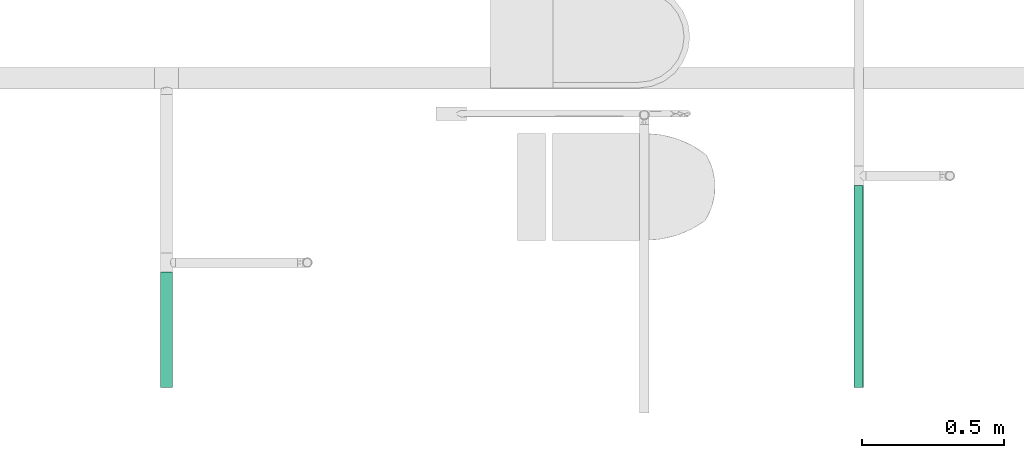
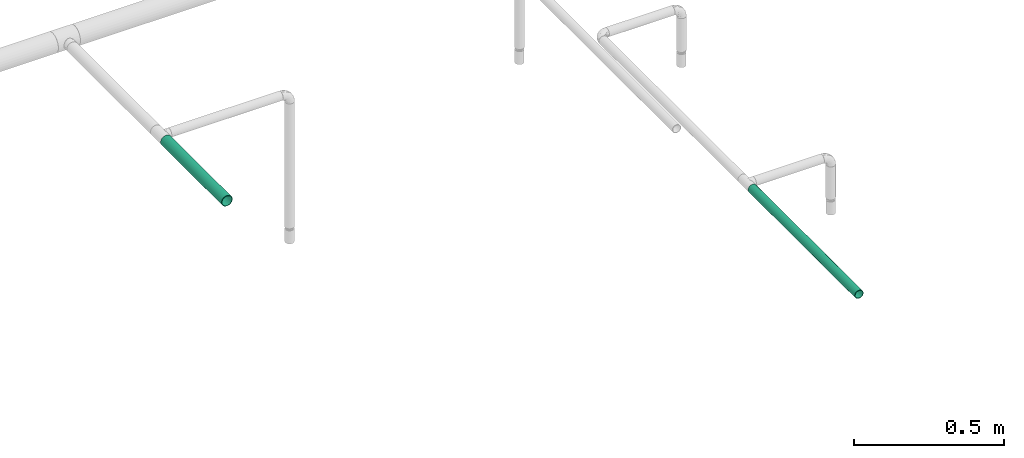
# One storey, part 84 of 95: 2 flow segments.
"""IFC2X3 building model written with IfcOpenShell, lengths in millimetres."""

from ifc_helpers import new_model, entity, si_unit, converted_unit, derived_unit, direction, frame, place, context, subcontext, project, spatial, faceted_brep, type_object, element, save


model = new_model("IFC2X3")

# Units and contexts
model_context = context("Model", 3, precision=0.01, world=frame((0.0, 4.29681676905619e-09, 0.0)), true_north=direction((4.01073788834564e-13, 1.0)))
plan_context = context("Plan", 3, precision=0.01, world=frame((0.0, 4.29681676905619e-09, 0.0)), true_north=direction((4.01073788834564e-13, 1.0)))
body_context = subcontext(model_context, "Body", "Model", "MODEL_VIEW")
ifc_project = project(units=[converted_unit("PLANEANGLEUNIT", "DEGREE", entity("IfcPositiveLengthMeasure", 0.0174532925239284), si_unit("PLANEANGLEUNIT", "RADIAN"), dimensions=[0, 0, 0, 0, 0, 0, 0]), si_unit("AREAUNIT", "SQUARE_METRE"), si_unit("LENGTHUNIT", "METRE", prefix="MILLI"), si_unit("MASSUNIT", "GRAM", prefix="KILO"), si_unit("POWERUNIT", "WATT"), si_unit("PRESSUREUNIT", "PASCAL"), si_unit("FORCEUNIT", "NEWTON", prefix="KILO"), si_unit("ELECTRICVOLTAGEUNIT", "VOLT"), si_unit("ELECTRICCURRENTUNIT", "AMPERE"), si_unit("THERMODYNAMICTEMPERATUREUNIT", "DEGREE_CELSIUS"), si_unit("TIMEUNIT", "SECOND"), si_unit("VOLUMEUNIT", "CUBIC_METRE"), derived_unit("LINEARVELOCITYUNIT", [(si_unit("LENGTHUNIT", "METRE"), 1), (si_unit("TIMEUNIT", "SECOND"), -1)]), derived_unit("VOLUMETRICFLOWRATEUNIT", [(si_unit("VOLUMEUNIT", "CUBIC_METRE"), 1), (si_unit("TIMEUNIT", "SECOND"), -1)]), derived_unit("THERMALTRANSMITTANCEUNIT", [(si_unit("POWERUNIT", "WATT"), 1), (si_unit("THERMODYNAMICTEMPERATUREUNIT", "KELVIN"), -1), (si_unit("AREAUNIT", "SQUARE_METRE"), -1)]), derived_unit("SOUNDPRESSUREUNIT", [(si_unit("PRESSUREUNIT", "PASCAL"), 1)])], contexts=[model_context, plan_context])

# Site, building, storey
site_placement = place(None, frame((0.0, -4.29681676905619e-09, 0.0), z_axis=(0.0, 0.0, 1.0), x_axis=(1.0, 0.0, 0.0)))
site = spatial("IfcSite", under=ifc_project, at=site_placement, CompositionType="ELEMENT")
building_placement = place(site_placement, frame((0.0, 4.29681676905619e-09, 0.0), z_axis=(0.0, 0.0, 1.0), x_axis=(1.0, 0.0, 0.0)))
building = spatial("IfcBuilding", under=site, at=building_placement, Name="mc-building", CompositionType="ELEMENT")
storey_placement = place(building_placement, frame((0.0, 0.0, 210900.0), z_axis=(0.0, 0.0, 1.0), x_axis=(1.0, 0.0, 0.0)))
storey = spatial("IfcBuildingStorey", under=building, at=storey_placement, Name="Nivå F", CompositionType="ELEMENT", Elevation=210900.0)

# Flow segments
pipe_segment_type = type_object("IfcPipeSegmentType", Name="Stålrør normaltykke", PredefinedType="RIGIDSEGMENT")
flow_segment_1_placement = place(storey_placement, frame((530010.01659, 441179.97142, 4310.0), z_axis=(0.0, 0.0, 1.0), x_axis=(0.0, -1.0, 0.0)))
element("IfcFlowSegment", 1, at=flow_segment_1_placement, inside=storey, type_object=pipe_segment_type, Name="Stålrør normaltykke", context=body_context, shape_type="Brep", body=[
    faceted_brep([(404.971420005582, 19.2, 0.0), (404.971420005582, 18.9083088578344, -3.33404501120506), (0.0, 18.9083088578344, -3.33404501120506), (0.0, 19.2, 0.0), (404.971420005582, 18.0420983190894, -6.56678675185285), (0.0, 18.0420983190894, -6.56678675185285), (404.971420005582, 16.6276877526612, -9.60000000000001), (0.0, 16.6276877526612, -9.60000000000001), (404.971420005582, 14.7080533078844, -12.3415221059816), (0.0, 14.7080533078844, -12.3415221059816), (404.971420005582, 12.3415221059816, -14.7080533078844), (0.0, 12.3415221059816, -14.7080533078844), (404.971420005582, 9.6, -16.6276877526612), (0.0, 9.6, -16.6276877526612), (404.971420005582, 6.56678675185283, -18.0420983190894), (0.0, 6.56678675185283, -18.0420983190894), (404.971420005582, 3.33404501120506, -18.9083088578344), (0.0, 3.33404501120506, -18.9083088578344), (404.971420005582, -3.52698278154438e-15, -19.2), (0.0, -3.52698278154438e-15, -19.2), (404.971420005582, -3.33404501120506, -18.9083088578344), (0.0, -3.33404501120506, -18.9083088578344), (404.971420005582, -6.56678675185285, -18.0420983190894), (0.0, -6.56678675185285, -18.0420983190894), (404.971420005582, -9.60000000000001, -16.6276877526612), (0.0, -9.60000000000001, -16.6276877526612), (404.971420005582, -12.3415221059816, -14.7080533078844), (0.0, -12.3415221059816, -14.7080533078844), (404.971420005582, -14.7080533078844, -12.3415221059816), (0.0, -14.7080533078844, -12.3415221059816), (404.971420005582, -16.6276877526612, -9.59999999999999), (0.0, -16.6276877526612, -9.59999999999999), (404.971420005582, -18.0420983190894, -6.56678675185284), (0.0, -18.0420983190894, -6.56678675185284), (404.971420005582, -18.9083088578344, -3.33404501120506), (0.0, -18.9083088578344, -3.33404501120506), (404.971420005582, -19.2, 2.35132185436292e-15), (0.0, -19.2, 2.35132185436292e-15), (404.971420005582, -18.9083088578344, 3.33404501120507), (0.0, -18.9083088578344, 3.33404501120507), (404.971420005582, -18.0420983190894, 6.56678675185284), (0.0, -18.0420983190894, 6.56678675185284), (404.971420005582, -16.6276877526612, 9.6), (0.0, -16.6276877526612, 9.6), (404.971420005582, -14.7080533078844, 12.3415221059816), (0.0, -14.7080533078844, 12.3415221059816), (404.971420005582, -12.3415221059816, 14.7080533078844), (0.0, -12.3415221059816, 14.7080533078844), (404.971420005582, -9.6, 16.6276877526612), (0.0, -9.6, 16.6276877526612), (404.971420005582, -6.56678675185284, 18.0420983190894), (0.0, -6.56678675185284, 18.0420983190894), (404.971420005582, -3.33404501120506, 18.9083088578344), (0.0, -3.33404501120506, 18.9083088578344), (404.971420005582, 1.17566092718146e-15, 19.2), (0.0, 1.17566092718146e-15, 19.2), (404.971420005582, 3.33404501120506, 18.9083088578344), (0.0, 3.33404501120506, 18.9083088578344), (404.971420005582, 6.56678675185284, 18.0420983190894), (0.0, 6.56678675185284, 18.0420983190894), (404.971420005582, 9.6, 16.6276877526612), (0.0, 9.6, 16.6276877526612), (404.971420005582, 12.3415221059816, 14.7080533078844), (0.0, 12.3415221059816, 14.7080533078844), (404.971420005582, 14.7080533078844, 12.3415221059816), (0.0, 14.7080533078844, 12.3415221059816), (404.971420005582, 16.6276877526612, 9.6), (0.0, 16.6276877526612, 9.6), (404.971420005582, 18.0420983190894, 6.56678675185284), (0.0, 18.0420983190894, 6.56678675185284), (404.971420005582, 18.9083088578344, 3.33404501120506), (0.0, 18.9083088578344, 3.33404501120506), (404.971420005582, 20.8779243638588, -3.68134136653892), (404.971420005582, 21.2, 0.0), (0.0, 21.2, 0.0), (0.0, 20.8779243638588, -3.68134136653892), (404.971420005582, 20.8779243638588, 3.68134136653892), (0.0, 20.8779243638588, 3.68134136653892), (404.971420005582, 19.9214835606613, 7.25082703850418), (0.0, 19.9214835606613, 7.25082703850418), (404.971420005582, 18.3597385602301, 10.6), (0.0, 18.3597385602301, 10.6), (404.971420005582, 16.2401421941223, 13.6270973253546), (0.0, 16.2401421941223, 13.6270973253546), (404.971420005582, 13.6270973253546, 16.2401421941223), (0.0, 13.6270973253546, 16.2401421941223), (404.971420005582, 10.6, 18.3597385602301), (0.0, 10.6, 18.3597385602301), (404.971420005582, 7.25082703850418, 19.9214835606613), (0.0, 7.25082703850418, 19.9214835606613), (404.971420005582, 3.68134136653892, 20.8779243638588), (0.0, 3.68134136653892, 20.8779243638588), (404.971420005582, 1.29812560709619e-15, 21.2), (0.0, 1.29812560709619e-15, 21.2), (404.971420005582, -3.68134136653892, 20.8779243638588), (0.0, -3.68134136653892, 20.8779243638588), (404.971420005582, -7.25082703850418, 19.9214835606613), (0.0, -7.25082703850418, 19.9214835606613), (404.971420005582, -10.6, 18.3597385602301), (0.0, -10.6, 18.3597385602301), (404.971420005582, -13.6270973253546, 16.2401421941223), (0.0, -13.6270973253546, 16.2401421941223), (404.971420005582, -16.2401421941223, 13.6270973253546), (0.0, -16.2401421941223, 13.6270973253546), (404.971420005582, -18.3597385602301, 10.6), (0.0, -18.3597385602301, 10.6), (404.971420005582, -19.9214835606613, 7.25082703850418), (0.0, -19.9214835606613, 7.25082703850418), (404.971420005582, -20.8779243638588, 3.68134136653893), (0.0, -20.8779243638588, 3.68134136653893), (404.971420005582, -21.2, 2.59625121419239e-15), (0.0, -21.2, 2.59625121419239e-15), (404.971420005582, -20.8779243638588, -3.68134136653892), (0.0, -20.8779243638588, -3.68134136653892), (404.971420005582, -19.9214835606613, -7.25082703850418), (0.0, -19.9214835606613, -7.25082703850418), (404.971420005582, -18.3597385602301, -10.6), (0.0, -18.3597385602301, -10.6), (404.971420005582, -16.2401421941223, -13.6270973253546), (0.0, -16.2401421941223, -13.6270973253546), (404.971420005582, -13.6270973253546, -16.2401421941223), (0.0, -13.6270973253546, -16.2401421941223), (404.971420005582, -10.6, -18.3597385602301), (0.0, -10.6, -18.3597385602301), (404.971420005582, -7.25082703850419, -19.9214835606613), (0.0, -7.25082703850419, -19.9214835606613), (404.971420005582, -3.68134136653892, -20.8779243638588), (0.0, -3.68134136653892, -20.8779243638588), (404.971420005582, -3.89437682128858e-15, -21.2), (0.0, -3.89437682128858e-15, -21.2), (404.971420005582, 3.68134136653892, -20.8779243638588), (0.0, 3.68134136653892, -20.8779243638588), (404.971420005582, 7.25082703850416, -19.9214835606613), (0.0, 7.25082703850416, -19.9214835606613), (404.971420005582, 10.6, -18.3597385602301), (0.0, 10.6, -18.3597385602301), (404.971420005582, 13.6270973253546, -16.2401421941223), (0.0, 13.6270973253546, -16.2401421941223), (404.971420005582, 16.2401421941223, -13.6270973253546), (0.0, 16.2401421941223, -13.6270973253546), (404.971420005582, 18.3597385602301, -10.6), (0.0, 18.3597385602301, -10.6), (404.971420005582, 19.9214835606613, -7.25082703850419), (0.0, 19.9214835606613, -7.25082703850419)], [[[0, 1, 2, 3]], [[1, 4, 5, 2]], [[4, 6, 7, 5]], [[6, 8, 9, 7]], [[8, 10, 11, 9]], [[10, 12, 13, 11]], [[12, 14, 15, 13]], [[14, 16, 17, 15]], [[16, 18, 19, 17]], [[18, 20, 21, 19]], [[20, 22, 23, 21]], [[22, 24, 25, 23]], [[24, 26, 27, 25]], [[26, 28, 29, 27]], [[28, 30, 31, 29]], [[30, 32, 33, 31]], [[32, 34, 35, 33]], [[34, 36, 37, 35]], [[36, 38, 39, 37]], [[38, 40, 41, 39]], [[40, 42, 43, 41]], [[42, 44, 45, 43]], [[44, 46, 47, 45]], [[46, 48, 49, 47]], [[48, 50, 51, 49]], [[50, 52, 53, 51]], [[52, 54, 55, 53]], [[54, 56, 57, 55]], [[56, 58, 59, 57]], [[58, 60, 61, 59]], [[60, 62, 63, 61]], [[62, 64, 65, 63]], [[64, 66, 67, 65]], [[66, 68, 69, 67]], [[68, 70, 71, 69]], [[70, 0, 3, 71]], [[72, 73, 74, 75]], [[73, 76, 77, 74]], [[76, 78, 79, 77]], [[78, 80, 81, 79]], [[80, 82, 83, 81]], [[82, 84, 85, 83]], [[84, 86, 87, 85]], [[86, 88, 89, 87]], [[88, 90, 91, 89]], [[90, 92, 93, 91]], [[92, 94, 95, 93]], [[94, 96, 97, 95]], [[96, 98, 99, 97]], [[98, 100, 101, 99]], [[100, 102, 103, 101]], [[102, 104, 105, 103]], [[104, 106, 107, 105]], [[106, 108, 109, 107]], [[108, 110, 111, 109]], [[110, 112, 113, 111]], [[112, 114, 115, 113]], [[114, 116, 117, 115]], [[116, 118, 119, 117]], [[118, 120, 121, 119]], [[120, 122, 123, 121]], [[122, 124, 125, 123]], [[124, 126, 127, 125]], [[126, 128, 129, 127]], [[128, 130, 131, 129]], [[130, 132, 133, 131]], [[132, 134, 135, 133]], [[134, 136, 137, 135]], [[136, 138, 139, 137]], [[138, 140, 141, 139]], [[140, 142, 143, 141]], [[142, 72, 75, 143]], [[75, 74, 77, 79, 81, 83, 85, 87, 89, 91, 93, 95, 97, 99, 101, 103, 105, 107, 109, 111, 113, 115, 117, 119, 121, 123, 125, 127, 129, 131, 133, 135, 137, 139, 141, 143], [3, 2, 5, 7, 9, 11, 13, 15, 17, 19, 21, 23, 25, 27, 29, 31, 33, 35, 37, 39, 41, 43, 45, 47, 49, 51, 53, 55, 57, 59, 61, 63, 65, 67, 69, 71]], [[142, 140, 138, 136, 134, 132, 130, 128, 126, 124, 122, 120, 118, 116, 114, 112, 110, 108, 106, 104, 102, 100, 98, 96, 94, 92, 90, 88, 86, 84, 82, 80, 78, 76, 73, 72], [70, 68, 66, 64, 62, 60, 58, 56, 54, 52, 50, 48, 46, 44, 42, 40, 38, 36, 34, 32, 30, 28, 26, 24, 22, 20, 18, 16, 14, 12, 10, 8, 6, 4, 1, 0]]], orient=[[False], [False], [False], [False], [False], [False], [False], [False], [False], [False], [False], [False], [False], [False], [False], [False], [False], [False], [False], [False], [False], [False], [False], [False], [False], [False], [False], [False], [False], [False], [False], [False], [False], [False], [False], [False], [False], [False], [False], [False], [False], [False], [False], [False], [False], [False], [False], [False], [False], [False], [False], [False], [False], [False], [False], [False], [False], [False], [False], [False], [False], [False], [False], [False], [False], [False], [False], [False], [False], [False], [False], [False], [False, False], [False, False]]),
])
flow_segment_2_placement = place(storey_placement, frame((532438.43666, 441484.35849, 3080.14999999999), z_axis=(0.0, 0.0, 1.0), x_axis=(0.0, -1.0, 0.0)))
element("IfcFlowSegment", 2, at=flow_segment_2_placement, inside=storey, type_object=pipe_segment_type, Name="Stålrør normaltykke", context=body_context, shape_type="Brep", body=[
    faceted_brep([(709.358490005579, 14.9, 0.0), (709.358490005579, 14.6736355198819, -2.58735784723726), (0.0, 14.6736355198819, -2.58735784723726), (0.0, 14.9, 0.0), (709.358490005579, 14.00142004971, -5.09610013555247), (0.0, 14.00142004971, -5.09610013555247), (709.358490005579, 12.9037785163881, -7.45), (0.0, 12.9037785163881, -7.45000000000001), (709.358490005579, 11.4140622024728, -9.57753538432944), (0.0, 11.4140622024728, -9.57753538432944), (709.358490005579, 9.57753538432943, -11.4140622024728), (0.0, 9.57753538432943, -11.4140622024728), (709.358490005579, 7.45, -12.9037785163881), (0.0, 7.45, -12.9037785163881), (709.358490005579, 5.09610013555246, -14.00142004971), (0.0, 5.09610013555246, -14.00142004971), (709.358490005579, 2.58735784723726, -14.6736355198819), (0.0, 2.58735784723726, -14.6736355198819), (709.358490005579, -2.73708559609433e-15, -14.9), (0.0, -2.73708559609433e-15, -14.9), (709.358490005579, -2.58735784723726, -14.6736355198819), (0.0, -2.58735784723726, -14.6736355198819), (709.358490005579, -5.09610013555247, -14.00142004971), (0.0, -5.09610013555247, -14.00142004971), (709.358490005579, -7.45, -12.9037785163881), (0.0, -7.45000000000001, -12.9037785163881), (709.358490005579, -9.57753538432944, -11.4140622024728), (0.0, -9.57753538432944, -11.4140622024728), (709.358490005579, -11.4140622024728, -9.57753538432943), (0.0, -11.4140622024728, -9.57753538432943), (709.358490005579, -12.9037785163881, -7.44999999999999), (0.0, -12.9037785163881, -7.44999999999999), (709.358490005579, -14.00142004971, -5.09610013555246), (0.0, -14.00142004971, -5.09610013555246), (709.358490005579, -14.6736355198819, -2.58735784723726), (0.0, -14.6736355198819, -2.58735784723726), (709.358490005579, -14.9, 1.82472373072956e-15), (0.0, -14.9, 1.82472373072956e-15), (709.358490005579, -14.6736355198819, 2.58735784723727), (0.0, -14.6736355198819, 2.58735784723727), (709.358490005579, -14.00142004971, 5.09610013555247), (0.0, -14.00142004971, 5.09610013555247), (709.358490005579, -12.9037785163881, 7.45), (0.0, -12.9037785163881, 7.45), (709.358490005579, -11.4140622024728, 9.57753538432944), (0.0, -11.4140622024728, 9.57753538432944), (709.358490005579, -9.57753538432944, 11.4140622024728), (0.0, -9.57753538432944, 11.4140622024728), (709.358490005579, -7.45, 12.9037785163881), (0.0, -7.45, 12.9037785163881), (709.358490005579, -5.09610013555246, 14.00142004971), (0.0, -5.09610013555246, 14.00142004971), (709.358490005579, -2.58735784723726, 14.6736355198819), (0.0, -2.58735784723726, 14.6736355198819), (709.358490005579, 9.12361865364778e-16, 14.9), (0.0, 9.12361865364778e-16, 14.9), (709.358490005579, 2.58735784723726, 14.6736355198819), (0.0, 2.58735784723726, 14.6736355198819), (709.358490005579, 5.09610013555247, 14.00142004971), (0.0, 5.09610013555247, 14.00142004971), (709.358490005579, 7.45, 12.9037785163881), (0.0, 7.45, 12.9037785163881), (709.358490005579, 9.57753538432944, 11.4140622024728), (0.0, 9.57753538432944, 11.4140622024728), (709.358490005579, 11.4140622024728, 9.57753538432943), (0.0, 11.4140622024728, 9.57753538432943), (709.358490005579, 12.9037785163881, 7.45), (0.0, 12.9037785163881, 7.45), (709.358490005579, 14.00142004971, 5.09610013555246), (0.0, 14.00142004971, 5.09610013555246), (709.358490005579, 14.6736355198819, 2.58735784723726), (0.0, 14.6736355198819, 2.58735784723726), (709.358490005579, 16.6432510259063, -2.93465420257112), (709.358490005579, 16.9, 0.0), (0.0, 16.9, 0.0), (0.0, 16.6432510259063, -2.93465420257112), (709.358490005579, 16.6432510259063, 2.93465420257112), (0.0, 16.6432510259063, 2.93465420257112), (709.358490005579, 15.8808052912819, 5.7801404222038), (0.0, 15.8808052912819, 5.7801404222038), (709.358490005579, 14.635829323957, 8.45), (0.0, 14.635829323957, 8.45), (709.358490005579, 12.9461510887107, 10.8631106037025), (0.0, 12.9461510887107, 10.8631106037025), (709.358490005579, 10.8631106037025, 12.9461510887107), (0.0, 10.8631106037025, 12.9461510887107), (709.358490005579, 8.45, 14.635829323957), (0.0, 8.45, 14.635829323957), (709.358490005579, 5.7801404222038, 15.8808052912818), (0.0, 5.7801404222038, 15.8808052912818), (709.358490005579, 2.93465420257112, 16.6432510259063), (0.0, 2.93465420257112, 16.6432510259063), (709.358490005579, 1.03482654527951e-15, 16.9), (0.0, 1.03482654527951e-15, 16.9), (709.358490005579, -2.93465420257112, 16.6432510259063), (0.0, -2.93465420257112, 16.6432510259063), (709.358490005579, -5.7801404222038, 15.8808052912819), (0.0, -5.7801404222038, 15.8808052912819), (709.358490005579, -8.45, 14.635829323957), (0.0, -8.45, 14.635829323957), (709.358490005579, -10.8631106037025, 12.9461510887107), (0.0, -10.8631106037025, 12.9461510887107), (709.358490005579, -12.9461510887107, 10.8631106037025), (0.0, -12.9461510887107, 10.8631106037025), (709.358490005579, -14.635829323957, 8.45), (0.0, -14.635829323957, 8.45), (709.358490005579, -15.8808052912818, 5.7801404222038), (0.0, -15.8808052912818, 5.7801404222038), (709.358490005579, -16.6432510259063, 2.93465420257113), (0.0, -16.6432510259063, 2.93465420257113), (709.358490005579, -16.9, 2.06965309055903e-15), (0.0, -16.9, 2.06965309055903e-15), (709.358490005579, -16.6432510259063, -2.93465420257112), (0.0, -16.6432510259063, -2.93465420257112), (709.358490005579, -15.8808052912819, -5.7801404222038), (0.0, -15.8808052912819, -5.7801404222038), (709.358490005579, -14.635829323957, -8.44999999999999), (0.0, -14.635829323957, -8.44999999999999), (709.358490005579, -12.9461510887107, -10.8631106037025), (0.0, -12.9461510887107, -10.8631106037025), (709.358490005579, -10.8631106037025, -12.9461510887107), (0.0, -10.8631106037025, -12.9461510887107), (709.358490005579, -8.45000000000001, -14.635829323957), (0.0, -8.45000000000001, -14.635829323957), (709.358490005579, -5.78014042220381, -15.8808052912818), (0.0, -5.78014042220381, -15.8808052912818), (709.358490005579, -2.93465420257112, -16.6432510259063), (0.0, -2.93465420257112, -16.6432510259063), (709.358490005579, -3.10447963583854e-15, -16.9), (0.0, -3.10447963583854e-15, -16.9), (709.358490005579, 2.93465420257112, -16.6432510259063), (0.0, 2.93465420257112, -16.6432510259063), (709.358490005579, 5.78014042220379, -15.8808052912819), (0.0, 5.78014042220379, -15.8808052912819), (709.358490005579, 8.45, -14.635829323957), (0.0, 8.45, -14.635829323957), (709.358490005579, 10.8631106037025, -12.9461510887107), (0.0, 10.8631106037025, -12.9461510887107), (709.358490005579, 12.9461510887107, -10.8631106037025), (0.0, 12.9461510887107, -10.8631106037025), (709.358490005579, 14.635829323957, -8.45000000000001), (0.0, 14.635829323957, -8.45000000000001), (709.358490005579, 15.8808052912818, -5.78014042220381), (0.0, 15.8808052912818, -5.78014042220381)], [[[0, 1, 2, 3]], [[1, 4, 5, 2]], [[4, 6, 7, 5]], [[6, 8, 9, 7]], [[8, 10, 11, 9]], [[10, 12, 13, 11]], [[12, 14, 15, 13]], [[14, 16, 17, 15]], [[16, 18, 19, 17]], [[18, 20, 21, 19]], [[20, 22, 23, 21]], [[22, 24, 25, 23]], [[24, 26, 27, 25]], [[26, 28, 29, 27]], [[28, 30, 31, 29]], [[30, 32, 33, 31]], [[32, 34, 35, 33]], [[34, 36, 37, 35]], [[36, 38, 39, 37]], [[38, 40, 41, 39]], [[40, 42, 43, 41]], [[42, 44, 45, 43]], [[44, 46, 47, 45]], [[46, 48, 49, 47]], [[48, 50, 51, 49]], [[50, 52, 53, 51]], [[52, 54, 55, 53]], [[54, 56, 57, 55]], [[56, 58, 59, 57]], [[58, 60, 61, 59]], [[60, 62, 63, 61]], [[62, 64, 65, 63]], [[64, 66, 67, 65]], [[66, 68, 69, 67]], [[68, 70, 71, 69]], [[70, 0, 3, 71]], [[72, 73, 74, 75]], [[73, 76, 77, 74]], [[76, 78, 79, 77]], [[78, 80, 81, 79]], [[80, 82, 83, 81]], [[82, 84, 85, 83]], [[84, 86, 87, 85]], [[86, 88, 89, 87]], [[88, 90, 91, 89]], [[90, 92, 93, 91]], [[92, 94, 95, 93]], [[94, 96, 97, 95]], [[96, 98, 99, 97]], [[98, 100, 101, 99]], [[100, 102, 103, 101]], [[102, 104, 105, 103]], [[104, 106, 107, 105]], [[106, 108, 109, 107]], [[108, 110, 111, 109]], [[110, 112, 113, 111]], [[112, 114, 115, 113]], [[114, 116, 117, 115]], [[116, 118, 119, 117]], [[118, 120, 121, 119]], [[120, 122, 123, 121]], [[122, 124, 125, 123]], [[124, 126, 127, 125]], [[126, 128, 129, 127]], [[128, 130, 131, 129]], [[130, 132, 133, 131]], [[132, 134, 135, 133]], [[134, 136, 137, 135]], [[136, 138, 139, 137]], [[138, 140, 141, 139]], [[140, 142, 143, 141]], [[142, 72, 75, 143]], [[75, 74, 77, 79, 81, 83, 85, 87, 89, 91, 93, 95, 97, 99, 101, 103, 105, 107, 109, 111, 113, 115, 117, 119, 121, 123, 125, 127, 129, 131, 133, 135, 137, 139, 141, 143], [3, 2, 5, 7, 9, 11, 13, 15, 17, 19, 21, 23, 25, 27, 29, 31, 33, 35, 37, 39, 41, 43, 45, 47, 49, 51, 53, 55, 57, 59, 61, 63, 65, 67, 69, 71]], [[142, 140, 138, 136, 134, 132, 130, 128, 126, 124, 122, 120, 118, 116, 114, 112, 110, 108, 106, 104, 102, 100, 98, 96, 94, 92, 90, 88, 86, 84, 82, 80, 78, 76, 73, 72], [70, 68, 66, 64, 62, 60, 58, 56, 54, 52, 50, 48, 46, 44, 42, 40, 38, 36, 34, 32, 30, 28, 26, 24, 22, 20, 18, 16, 14, 12, 10, 8, 6, 4, 1, 0]]], orient=[[False], [False], [False], [False], [False], [False], [False], [False], [False], [False], [False], [False], [False], [False], [False], [False], [False], [False], [False], [False], [False], [False], [False], [False], [False], [False], [False], [False], [False], [False], [False], [False], [False], [False], [False], [False], [False], [False], [False], [False], [False], [False], [False], [False], [False], [False], [False], [False], [False], [False], [False], [False], [False], [False], [False], [False], [False], [False], [False], [False], [False], [False], [False], [False], [False], [False], [False], [False], [False], [False], [False], [False], [False, False], [False, False]]),
])

save(model, "model.ifc")
